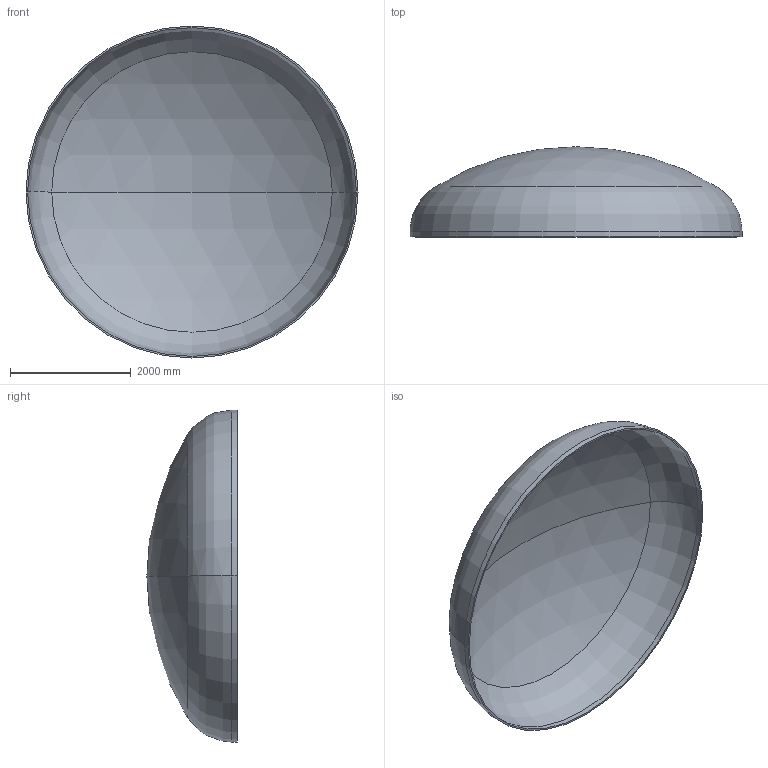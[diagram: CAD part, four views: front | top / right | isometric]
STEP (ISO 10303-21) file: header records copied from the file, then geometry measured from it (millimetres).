
FILE_DESCRIPTION (( 'STEP AP203' ), '1' );
FILE_NAME ('DIN 28013 Korbbogenform_-_Boden DIN 28013 - 5500 x 85 - I - s=27.step', '2016-07-04T10:33:49', ( '' ), ( '' ), 'SwSTEP 2.0', 'SolidWorks 2013', '' );
FILE_SCHEMA (( 'CONFIG_CONTROL_DESIGN' ));
Length unit declared in the file: millimetre
Products named in the file (1): DIN 28013 Korbbogenform_-_Boden DIN 28013 - 5500 x 85 - I - s=27
Bounding box: 5500 x 1493.53 x 5500 mm (x, y, z)
Volume: 921771421.5 mm3; surface area: 68745100.6 mm2
Topology: 1 solids, 1 shells, 13 faces, 24 edges, 14 vertices
Faces by surface type: torus 4, cylinder 4, sphere 4, plane 1
Entity records: 407 total; most frequent: DIRECTION 72, CARTESIAN_POINT 52, ORIENTED_EDGE 48, AXIS2_PLACEMENT_3D 34, EDGE_CURVE 24, CIRCLE 20, VERTEX_POINT 14, EDGE_LOOP 14
